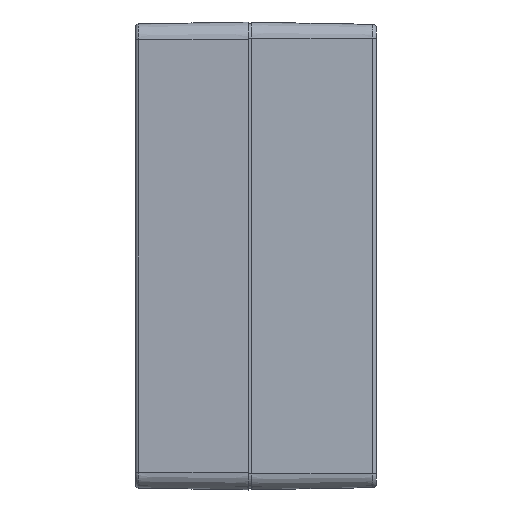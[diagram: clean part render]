
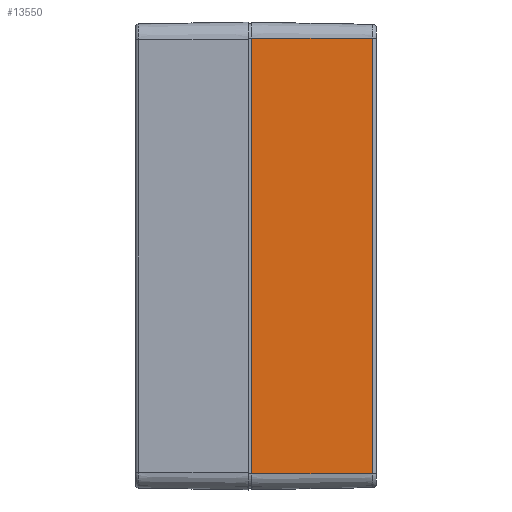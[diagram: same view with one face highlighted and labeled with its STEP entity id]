
A CAD part, left-side view. The second image highlights one B-rep face of the part: STEP entity #13550.
In plain terms, the highlighted planar face has unit normal (-1, -0.018, 0).
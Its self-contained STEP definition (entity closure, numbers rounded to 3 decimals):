
#1469 = LINE ( 'NONE', #7010, #56588 ) ;
#1564 = VERTEX_POINT ( 'NONE', #54870 ) ;
#5641 = DIRECTION ( 'NONE',  ( 0.017, -1., 0. ) ) ;
#5943 = CARTESIAN_POINT ( 'NONE',  ( -111., 0., 68. ) ) ;
#7010 = CARTESIAN_POINT ( 'NONE',  ( -111., 0., -68. ) ) ;
#8827 = LINE ( 'NONE', #51180, #30341 ) ;
#10249 = FACE_OUTER_BOUND ( 'NONE', #12880, .T. ) ;
#12755 = VERTEX_POINT ( 'NONE', #18061 ) ;
#12880 = EDGE_LOOP ( 'NONE', ( #33061, #24831, #21260, #51719 ) ) ;
#13550 = ADVANCED_FACE ( 'NONE', ( #10249 ), #47057, .T. ) ;
#18061 = CARTESIAN_POINT ( 'NONE',  ( -110.323, -38.772, -68. ) ) ;
#18827 = DIRECTION ( 'NONE',  ( 0., 0., 1. ) ) ;
#21260 = ORIENTED_EDGE ( 'NONE', *, *, #31063, .F. ) ;
#23419 = LINE ( 'NONE', #42139, #28192 ) ;
#24831 = ORIENTED_EDGE ( 'NONE', *, *, #59634, .T. ) ;
#27811 = CARTESIAN_POINT ( 'NONE',  ( -110.323, -38.772, 68. ) ) ;
#27846 = DIRECTION ( 'NONE',  ( 0., 0., -1. ) ) ;
#28192 = VECTOR ( 'NONE', #18827, 1000. ) ;
#29270 = EDGE_CURVE ( 'NONE', #49199, #41804, #48073, .T. ) ;
#30341 = VECTOR ( 'NONE', #27846, 1000. ) ;
#31063 = EDGE_CURVE ( 'NONE', #12755, #1564, #1469, .T. ) ;
#33061 = ORIENTED_EDGE ( 'NONE', *, *, #29270, .T. ) ;
#41804 = VERTEX_POINT ( 'NONE', #41908 ) ;
#41908 = CARTESIAN_POINT ( 'NONE',  ( -110.983, -1., 68. ) ) ;
#42139 = CARTESIAN_POINT ( 'NONE',  ( -110.323, -38.772, 68. ) ) ;
#43057 = DIRECTION ( 'NONE',  ( -1., -0.017, 0. ) ) ;
#43631 = AXIS2_PLACEMENT_3D ( 'NONE', #5943, #43057, #5641 ) ;
#44420 = DIRECTION ( 'NONE',  ( -0.017, 1., 0. ) ) ;
#47057 = PLANE ( 'NONE',  #43631 ) ;
#47725 = VECTOR ( 'NONE', #48673, 1000. ) ;
#48073 = LINE ( 'NONE', #58501, #47725 ) ;
#48673 = DIRECTION ( 'NONE',  ( -0.017, 1., 0. ) ) ;
#49199 = VERTEX_POINT ( 'NONE', #27811 ) ;
#51180 = CARTESIAN_POINT ( 'NONE',  ( -110.983, -1., 68. ) ) ;
#51719 = ORIENTED_EDGE ( 'NONE', *, *, #55119, .T. ) ;
#54870 = CARTESIAN_POINT ( 'NONE',  ( -110.983, -1., -68. ) ) ;
#55119 = EDGE_CURVE ( 'NONE', #12755, #49199, #23419, .T. ) ;
#56588 = VECTOR ( 'NONE', #44420, 1000. ) ;
#58501 = CARTESIAN_POINT ( 'NONE',  ( -111., 0., 68. ) ) ;
#59634 = EDGE_CURVE ( 'NONE', #41804, #1564, #8827, .T. ) ;
